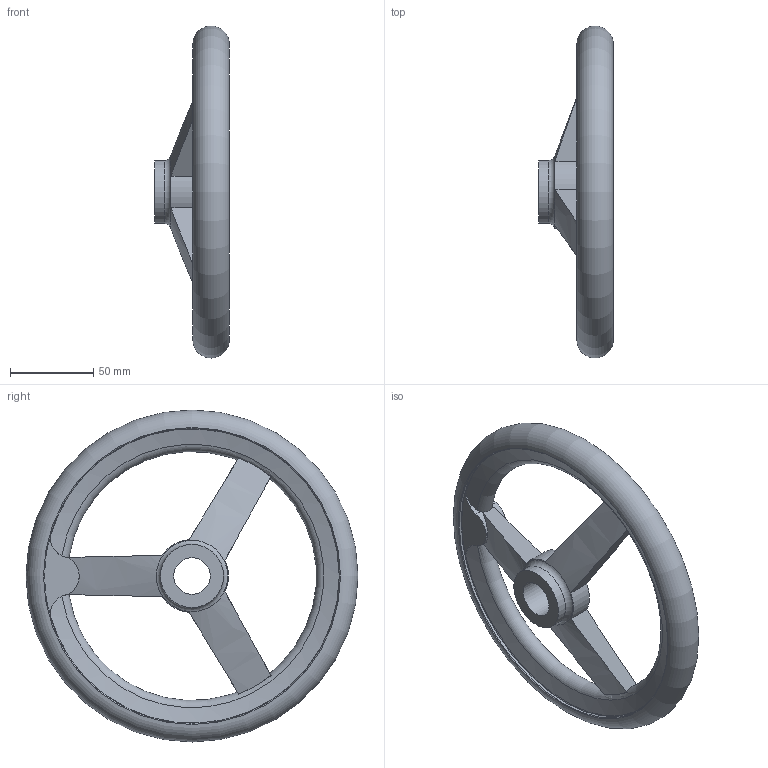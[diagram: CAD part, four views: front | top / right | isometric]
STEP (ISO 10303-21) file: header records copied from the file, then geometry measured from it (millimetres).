
FILE_DESCRIPTION( ( 'STEP AP203' ), '1' );
FILE_NAME( 'C:/Temp/Ganter_Step_05_03_2020/data/1_3/din_950/din_950_b/din_950_b_a/Handwheel DIN 950-AL-200-B22-A.stp', '2020-03-05T10:29:23', ( 'License CC BY-ND 4.0' ), ( 'CADENAS' ), ' ', 'PARTsolutions', ' ' );
FILE_SCHEMA( ( 'CONFIG_CONTROL_DESIGN' ) );
Length unit declared in the file: millimetre
Products named in the file (1): _Handwheel DIN 950-AL-200-B22-A
Bounding box: 45 x 200 x 200 mm (x, y, z)
Volume: 272967.8 mm3; surface area: 59046.6 mm2
Topology: 1 solids, 1 shells, 42 faces, 122 edges, 78 vertices
Faces by surface type: cylinder 14, torus 14, plane 10, cone 4
Full cylindrical faces by diameter (mm): 22 x1, 38 x2, 178 x2
Entity records: 1747 total; most frequent: CARTESIAN_POINT 719, ORIENTED_EDGE 208, DIRECTION 184, EDGE_CURVE 104, AXIS2_PLACEMENT_3D 85, VERTEX_POINT 75, EDGE_LOOP 60, FACE_OUTER_BOUND 54
